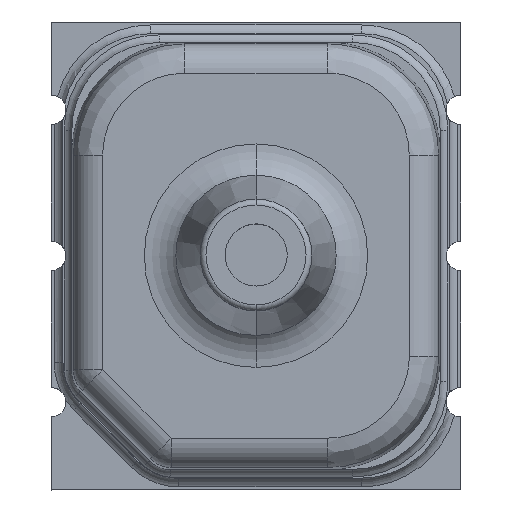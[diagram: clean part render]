
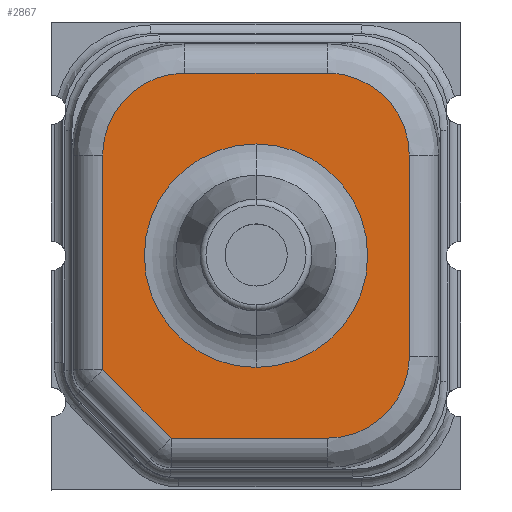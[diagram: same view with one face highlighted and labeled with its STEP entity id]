
A CAD part, top view. The second image highlights one B-rep face of the part: STEP entity #2867.
In plain terms, the highlighted planar face has unit normal (0, 0, 1).
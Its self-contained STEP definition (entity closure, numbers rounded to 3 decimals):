
#737=DIRECTION('',(0.,-1.,0.));
#738=VECTOR('',#737,3.671);
#739=CARTESIAN_POINT('',(25.48,-38.28,2.61));
#740=LINE('',#739,#738);
#741=CARTESIAN_POINT('',(26.88,-36.88,2.61));
#742=CARTESIAN_POINT('',(26.806,-36.88,2.61));
#743=CARTESIAN_POINT('',(26.66,-36.891,2.61));
#744=CARTESIAN_POINT('',(26.445,-36.943,2.61));
#745=CARTESIAN_POINT('',(26.241,-37.027,2.61));
#746=CARTESIAN_POINT('',(26.053,-37.142,2.61));
#747=CARTESIAN_POINT('',(25.886,-37.286,2.61));
#748=CARTESIAN_POINT('',(25.742,-37.453,2.61));
#749=CARTESIAN_POINT('',(25.627,-37.642,2.61));
#750=CARTESIAN_POINT('',(25.543,-37.845,2.61));
#751=CARTESIAN_POINT('',(25.491,-38.06,2.61));
#752=CARTESIAN_POINT('',(25.48,-38.206,2.61));
#753=CARTESIAN_POINT('',(25.48,-38.28,2.61));
#755=DIRECTION('',(-1.,0.,0.));
#756=VECTOR('',#755,2.441);
#757=CARTESIAN_POINT('',(29.32,-36.88,2.61));
#758=LINE('',#757,#756);
#759=CARTESIAN_POINT('',(30.72,-38.28,2.61));
#760=CARTESIAN_POINT('',(30.72,-38.206,2.61));
#761=CARTESIAN_POINT('',(30.709,-38.06,2.61));
#762=CARTESIAN_POINT('',(30.657,-37.845,2.61));
#763=CARTESIAN_POINT('',(30.573,-37.641,2.61));
#764=CARTESIAN_POINT('',(30.458,-37.453,2.61));
#765=CARTESIAN_POINT('',(30.314,-37.286,2.61));
#766=CARTESIAN_POINT('',(30.147,-37.142,2.61));
#767=CARTESIAN_POINT('',(29.958,-37.027,2.61));
#768=CARTESIAN_POINT('',(29.755,-36.943,2.61));
#769=CARTESIAN_POINT('',(29.54,-36.891,2.61));
#770=CARTESIAN_POINT('',(29.394,-36.88,2.61));
#771=CARTESIAN_POINT('',(29.32,-36.88,2.61));
#773=DIRECTION('',(0.,1.,0.));
#774=VECTOR('',#773,3.441);
#775=CARTESIAN_POINT('',(30.72,-41.72,2.61));
#776=LINE('',#775,#774);
#777=CARTESIAN_POINT('',(29.32,-43.12,2.61));
#778=CARTESIAN_POINT('',(29.394,-43.12,2.61));
#779=CARTESIAN_POINT('',(29.54,-43.109,2.61));
#780=CARTESIAN_POINT('',(29.755,-43.057,2.61));
#781=CARTESIAN_POINT('',(29.959,-42.973,2.61));
#782=CARTESIAN_POINT('',(30.147,-42.858,2.61));
#783=CARTESIAN_POINT('',(30.314,-42.714,2.61));
#784=CARTESIAN_POINT('',(30.458,-42.547,2.61));
#785=CARTESIAN_POINT('',(30.573,-42.358,2.61));
#786=CARTESIAN_POINT('',(30.657,-42.155,2.61));
#787=CARTESIAN_POINT('',(30.709,-41.94,2.61));
#788=CARTESIAN_POINT('',(30.72,-41.794,2.61));
#789=CARTESIAN_POINT('',(30.72,-41.72,2.61));
#791=DIRECTION('',(1.,0.,0.));
#792=VECTOR('',#791,2.671);
#793=CARTESIAN_POINT('',(26.649,-43.12,2.61));
#794=LINE('',#793,#792);
#795=DIRECTION('',(0.707,-0.707,0.));
#796=VECTOR('',#795,1.654);
#797=CARTESIAN_POINT('',(25.48,-41.951,2.61));
#798=LINE('',#797,#796);
#799=CARTESIAN_POINT('',(28.1,-40.,2.61));
#800=DIRECTION('',(0.,0.,1.));
#801=DIRECTION('',(0.,-1.,0.));
#802=AXIS2_PLACEMENT_3D('',#799,#800,#801);
#804=CARTESIAN_POINT('',(28.1,-40.,2.61));
#805=DIRECTION('',(0.,0.,1.));
#806=DIRECTION('',(0.,1.,0.));
#807=AXIS2_PLACEMENT_3D('',#804,#805,#806);
#1814=CARTESIAN_POINT('',(25.48,-38.28,2.61));
#1815=CARTESIAN_POINT('',(25.48,-41.951,2.61));
#1816=VERTEX_POINT('',#1814);
#1817=VERTEX_POINT('',#1815);
#1818=CARTESIAN_POINT('',(29.32,-36.88,2.61));
#1819=CARTESIAN_POINT('',(26.88,-36.88,2.61));
#1820=VERTEX_POINT('',#1818);
#1821=VERTEX_POINT('',#1819);
#1826=CARTESIAN_POINT('',(30.72,-41.72,2.61));
#1827=CARTESIAN_POINT('',(30.72,-38.28,2.61));
#1828=VERTEX_POINT('',#1826);
#1829=VERTEX_POINT('',#1827);
#1834=CARTESIAN_POINT('',(26.649,-43.12,2.61));
#1835=CARTESIAN_POINT('',(29.32,-43.12,2.61));
#1836=VERTEX_POINT('',#1834);
#1837=VERTEX_POINT('',#1835);
#1870=CARTESIAN_POINT('',(28.1,-41.91,2.61));
#1871=CARTESIAN_POINT('',(28.1,-38.09,2.61));
#1872=VERTEX_POINT('',#1870);
#1873=VERTEX_POINT('',#1871);
#2841=CARTESIAN_POINT('',(28.1,-40.,2.61));
#2842=DIRECTION('',(0.,0.,1.));
#2843=DIRECTION('',(0.,1.,0.));
#2844=AXIS2_PLACEMENT_3D('',#2841,#2842,#2843);
#2845=PLANE('',#2844);
#2846=ORIENTED_EDGE('',*,*,#2719,.F.);
#2847=ORIENTED_EDGE('',*,*,#2820,.F.);
#2848=ORIENTED_EDGE('',*,*,#2832,.F.);
#2850=ORIENTED_EDGE('',*,*,#2849,.F.);
#2852=ORIENTED_EDGE('',*,*,#2851,.F.);
#2854=ORIENTED_EDGE('',*,*,#2853,.F.);
#2856=ORIENTED_EDGE('',*,*,#2855,.F.);
#2858=ORIENTED_EDGE('',*,*,#2857,.F.);
#2859=EDGE_LOOP('',(#2846,#2847,#2848,#2850,#2852,#2854,#2856,#2858));
#2860=FACE_OUTER_BOUND('',#2859,.F.);
#2862=ORIENTED_EDGE('',*,*,#2861,.T.);
#2864=ORIENTED_EDGE('',*,*,#2863,.T.);
#2865=EDGE_LOOP('',(#2862,#2864));
#2866=FACE_BOUND('',#2865,.F.);
#2867=ADVANCED_FACE('',(#2860,#2866),#2845,.T.);
#754=B_SPLINE_CURVE_WITH_KNOTS('',3,(#741,#742,#743,#744,#745,#746,#747,#748,
#749,#750,#751,#752,#753),.UNSPECIFIED.,.F.,.F.,(4,1,1,1,1,1,1,1,1,1,4),(0.,
0.1,0.2,0.3,0.4,0.5,0.6,0.7,0.8,0.9,1.),.UNSPECIFIED.);
#772=B_SPLINE_CURVE_WITH_KNOTS('',3,(#759,#760,#761,#762,#763,#764,#765,#766,
#767,#768,#769,#770,#771),.UNSPECIFIED.,.F.,.F.,(4,1,1,1,1,1,1,1,1,1,4),(0.,
0.1,0.2,0.3,0.4,0.5,0.6,0.7,0.8,0.9,1.),.UNSPECIFIED.);
#790=B_SPLINE_CURVE_WITH_KNOTS('',3,(#777,#778,#779,#780,#781,#782,#783,#784,
#785,#786,#787,#788,#789),.UNSPECIFIED.,.F.,.F.,(4,1,1,1,1,1,1,1,1,1,4),(0.,
0.1,0.2,0.3,0.4,0.5,0.6,0.7,0.8,0.9,1.),.UNSPECIFIED.);
#803=CIRCLE('',#802,1.91);
#808=CIRCLE('',#807,1.91);
#2719=EDGE_CURVE('',#1816,#1817,#740,.T.);
#2820=EDGE_CURVE('',#1821,#1816,#754,.T.);
#2832=EDGE_CURVE('',#1820,#1821,#758,.T.);
#2849=EDGE_CURVE('',#1829,#1820,#772,.T.);
#2851=EDGE_CURVE('',#1828,#1829,#776,.T.);
#2853=EDGE_CURVE('',#1837,#1828,#790,.T.);
#2855=EDGE_CURVE('',#1836,#1837,#794,.T.);
#2857=EDGE_CURVE('',#1817,#1836,#798,.T.);
#2861=EDGE_CURVE('',#1872,#1873,#803,.T.);
#2863=EDGE_CURVE('',#1873,#1872,#808,.T.);
